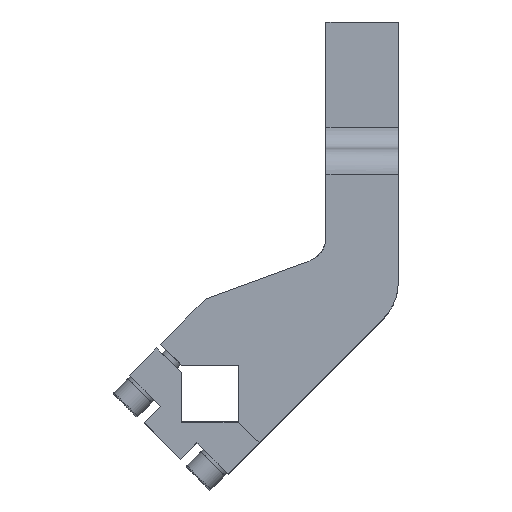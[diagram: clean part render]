
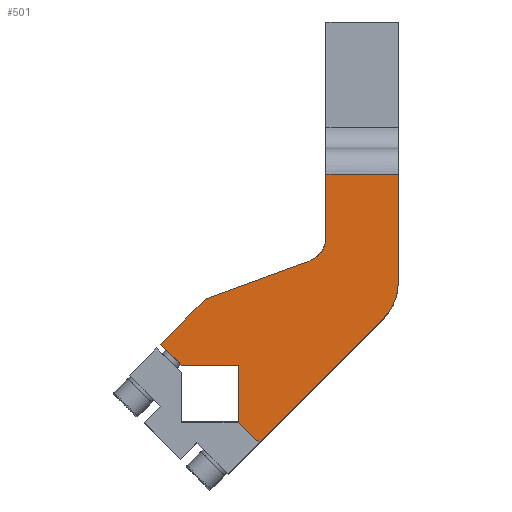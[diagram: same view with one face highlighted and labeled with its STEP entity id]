
A CAD part, top view. The second image highlights one B-rep face of the part: STEP entity #501.
In plain terms, the highlighted planar face has unit normal (0, 0, 1).
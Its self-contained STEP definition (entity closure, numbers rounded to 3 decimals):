
#326=CARTESIAN_POINT('Vertex',(67.142,28.958,39.)) ;
#329=CARTESIAN_POINT('Line Origine',(43.117,4.933,39.)) ;
#333=CARTESIAN_POINT('Vertex',(19.092,-19.092,39.)) ;
#353=CARTESIAN_POINT('Line Origine',(15.076,-15.076,39.)) ;
#357=CARTESIAN_POINT('Vertex',(11.06,-11.06,39.)) ;
#405=CARTESIAN_POINT('Axis2P3D Location',(0.,0.,39.)) ;
#410=CARTESIAN_POINT('Line Origine',(73.,64.05,39.)) ;
#414=CARTESIAN_POINT('Vertex',(73.,85.,39.)) ;
#416=CARTESIAN_POINT('Vertex',(73.,43.101,39.)) ;
#419=CARTESIAN_POINT('Line Origine',(59.,85.,39.)) ;
#423=CARTESIAN_POINT('Vertex',(45.,85.,39.)) ;
#426=CARTESIAN_POINT('Line Origine',(45.,72.824,39.)) ;
#430=CARTESIAN_POINT('Vertex',(45.,60.649,39.)) ;
#434=CARTESIAN_POINT('Control Point',(45.,60.649,39.)) ;
#435=CARTESIAN_POINT('Control Point',(45.,59.719,39.)) ;
#436=CARTESIAN_POINT('Control Point',(44.892,58.79,39.)) ;
#437=CARTESIAN_POINT('Control Point',(44.676,57.877,39.)) ;
#438=CARTESIAN_POINT('Control Point',(44.036,56.118,39.)) ;
#439=CARTESIAN_POINT('Control Point',(43.01,54.553,39.)) ;
#440=CARTESIAN_POINT('Control Point',(42.407,53.834,39.)) ;
#441=CARTESIAN_POINT('Control Point',(41.299,52.788,39.)) ;
#442=CARTESIAN_POINT('Control Point',(40.02,51.971,39.)) ;
#443=CARTESIAN_POINT('Control Point',(39.504,51.692,39.)) ;
#444=CARTESIAN_POINT('Control Point',(38.969,51.452,39.)) ;
#445=CARTESIAN_POINT('Control Point',(38.42,51.252,39.)) ;
#446=CARTESIAN_POINT('Vertex',(38.42,51.252,39.)) ;
#449=CARTESIAN_POINT('Line Origine',(18.49,43.998,39.)) ;
#453=CARTESIAN_POINT('Vertex',(-1.44,36.744,39.)) ;
#456=CARTESIAN_POINT('Line Origine',(-10.266,27.918,39.)) ;
#460=CARTESIAN_POINT('Vertex',(-19.092,19.092,39.)) ;
#463=CARTESIAN_POINT('Line Origine',(-15.076,15.076,39.)) ;
#467=CARTESIAN_POINT('Vertex',(-11.06,11.06,39.)) ;
#470=CARTESIAN_POINT('Line Origine',(0.,11.06,39.)) ;
#474=CARTESIAN_POINT('Vertex',(11.06,11.06,39.)) ;
#477=CARTESIAN_POINT('Line Origine',(11.06,0.,39.)) ;
#482=CARTESIAN_POINT('Axis2P3D Location',(53.,43.101,39.)) ;
#330=DIRECTION('Vector Direction',(0.707,0.707,0.)) ;
#354=DIRECTION('Vector Direction',(0.707,-0.707,0.)) ;
#406=DIRECTION('Axis2P3D Direction',(0.,0.,1.)) ;
#407=DIRECTION('Axis2P3D XDirection',(1.,0.,0.)) ;
#411=DIRECTION('Vector Direction',(0.,-1.,0.)) ;
#420=DIRECTION('Vector Direction',(-1.,0.,0.)) ;
#427=DIRECTION('Vector Direction',(0.,-1.,0.)) ;
#450=DIRECTION('Vector Direction',(-0.94,-0.342,0.)) ;
#457=DIRECTION('Vector Direction',(-0.707,-0.707,0.)) ;
#464=DIRECTION('Vector Direction',(0.707,-0.707,0.)) ;
#471=DIRECTION('Vector Direction',(1.,0.,0.)) ;
#478=DIRECTION('Vector Direction',(0.,-1.,0.)) ;
#483=DIRECTION('Axis2P3D Direction',(0.,0.,1.)) ;
#408=AXIS2_PLACEMENT_3D('Plane Axis2P3D',#405,#406,#407) ;
#484=AXIS2_PLACEMENT_3D('Circle Axis2P3D',#482,#483,$) ;
#488=ORIENTED_EDGE('',*,*,#418,.F.) ;
#489=ORIENTED_EDGE('',*,*,#425,.T.) ;
#490=ORIENTED_EDGE('',*,*,#432,.T.) ;
#491=ORIENTED_EDGE('',*,*,#448,.T.) ;
#492=ORIENTED_EDGE('',*,*,#455,.T.) ;
#493=ORIENTED_EDGE('',*,*,#462,.T.) ;
#494=ORIENTED_EDGE('',*,*,#469,.T.) ;
#495=ORIENTED_EDGE('',*,*,#476,.T.) ;
#496=ORIENTED_EDGE('',*,*,#481,.T.) ;
#497=ORIENTED_EDGE('',*,*,#359,.T.) ;
#498=ORIENTED_EDGE('',*,*,#335,.T.) ;
#499=ORIENTED_EDGE('',*,*,#486,.T.) ;
#331=VECTOR('Line Direction',#330,1.) ;
#355=VECTOR('Line Direction',#354,1.) ;
#412=VECTOR('Line Direction',#411,1.) ;
#421=VECTOR('Line Direction',#420,1.) ;
#428=VECTOR('Line Direction',#427,1.) ;
#451=VECTOR('Line Direction',#450,1.) ;
#458=VECTOR('Line Direction',#457,1.) ;
#465=VECTOR('Line Direction',#464,1.) ;
#472=VECTOR('Line Direction',#471,1.) ;
#479=VECTOR('Line Direction',#478,1.) ;
#501=ADVANCED_FACE('NONE',(#500),#409,.T.) ;
#433=B_SPLINE_CURVE_WITH_KNOTS('',5,(#434,#435,#436,#437,#438,#439,#440,#441,#442,#443,#444,#445),.UNSPECIFIED.,.F.,.U.,(6,3,3,6),(0.,6.573,13.145,17.278),.UNSPECIFIED.) ;
#485=CIRCLE('generated circle',#484,20.) ;
#335=EDGE_CURVE('',#334,#327,#332,.T.) ;
#359=EDGE_CURVE('',#358,#334,#356,.T.) ;
#418=EDGE_CURVE('',#415,#417,#413,.T.) ;
#425=EDGE_CURVE('',#415,#424,#422,.T.) ;
#432=EDGE_CURVE('',#424,#431,#429,.T.) ;
#448=EDGE_CURVE('',#431,#447,#433,.T.) ;
#455=EDGE_CURVE('',#447,#454,#452,.T.) ;
#462=EDGE_CURVE('',#454,#461,#459,.T.) ;
#469=EDGE_CURVE('',#461,#468,#466,.T.) ;
#476=EDGE_CURVE('',#468,#475,#473,.T.) ;
#481=EDGE_CURVE('',#475,#358,#480,.T.) ;
#486=EDGE_CURVE('',#327,#417,#485,.T.) ;
#487=EDGE_LOOP('',(#488,#489,#490,#491,#492,#493,#494,#495,#496,#497,#498,#499)) ;
#500=FACE_OUTER_BOUND('',#487,.T.) ;
#332=LINE('Line',#329,#331) ;
#356=LINE('Line',#353,#355) ;
#413=LINE('Line',#410,#412) ;
#422=LINE('Line',#419,#421) ;
#429=LINE('Line',#426,#428) ;
#452=LINE('Line',#449,#451) ;
#459=LINE('Line',#456,#458) ;
#466=LINE('Line',#463,#465) ;
#473=LINE('Line',#470,#472) ;
#480=LINE('Line',#477,#479) ;
#409=PLANE('Plane',#408) ;
#327=VERTEX_POINT('',#326) ;
#334=VERTEX_POINT('',#333) ;
#358=VERTEX_POINT('',#357) ;
#415=VERTEX_POINT('',#414) ;
#417=VERTEX_POINT('',#416) ;
#424=VERTEX_POINT('',#423) ;
#431=VERTEX_POINT('',#430) ;
#447=VERTEX_POINT('',#446) ;
#454=VERTEX_POINT('',#453) ;
#461=VERTEX_POINT('',#460) ;
#468=VERTEX_POINT('',#467) ;
#475=VERTEX_POINT('',#474) ;
